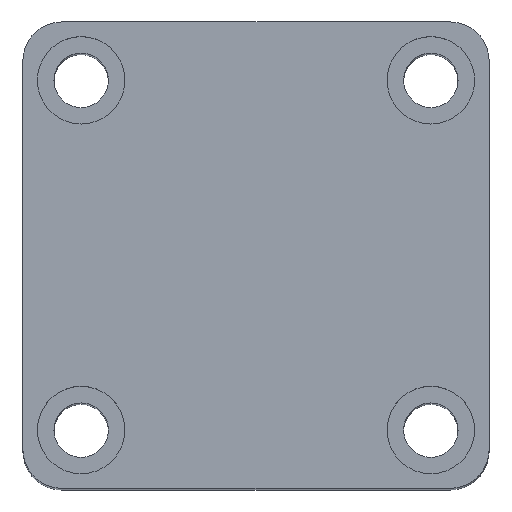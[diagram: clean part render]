
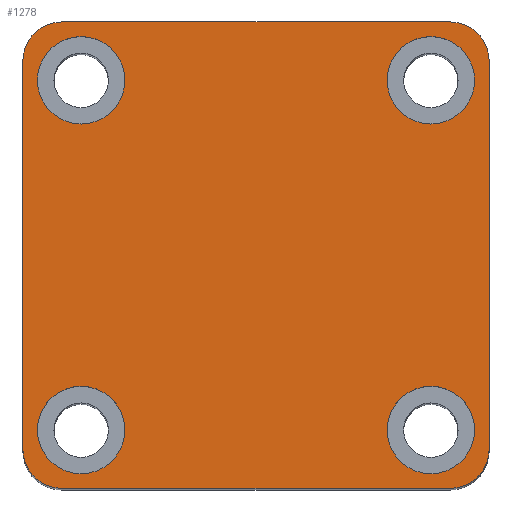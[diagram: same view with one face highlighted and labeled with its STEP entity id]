
A CAD part, top view. The second image highlights one B-rep face of the part: STEP entity #1278.
In plain terms, the highlighted planar face has unit normal (0, 0, 1).
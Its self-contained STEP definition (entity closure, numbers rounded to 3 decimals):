
#111 = ORIENTED_EDGE ( 'NONE', *, *, #1208, .T. ) ;
#134 = ORIENTED_EDGE ( 'NONE', *, *, #1192, .F. ) ;
#144 = ORIENTED_EDGE ( 'NONE', *, *, #1196, .F. ) ;
#145 = ORIENTED_EDGE ( 'NONE', *, *, #1159, .T. ) ;
#173 = ORIENTED_EDGE ( 'NONE', *, *, #1215, .F. ) ;
#212 = ORIENTED_EDGE ( 'NONE', *, *, #1160, .F. ) ;
#247 = ORIENTED_EDGE ( 'NONE', *, *, #1099, .T. ) ;
#264 = ORIENTED_EDGE ( 'NONE', *, *, #1675, .F. ) ;
#265 = ORIENTED_EDGE ( 'NONE', *, *, #1132, .F. ) ;
#313 = ORIENTED_EDGE ( 'NONE', *, *, #1161, .F. ) ;
#342 = CIRCLE ( 'NONE', #1842, 4.5 ) ;
#353 = CIRCLE ( 'NONE', #1846, 4. ) ;
#380 = CIRCLE ( 'NONE', #1853, 4.5 ) ;
#382 = CIRCLE ( 'NONE', #1855, 4.5 ) ;
#385 = ORIENTED_EDGE ( 'NONE', *, *, #1171, .T. ) ;
#414 = ORIENTED_EDGE ( 'NONE', *, *, #1141, .T. ) ;
#415 = CIRCLE ( 'NONE', #1863, 4. ) ;
#418 = CIRCLE ( 'NONE', #1868, 4. ) ;
#422 = CIRCLE ( 'NONE', #1870, 4.5 ) ;
#425 = CIRCLE ( 'NONE', #1872, 4.5 ) ;
#427 = CIRCLE ( 'NONE', #1873, 4. ) ;
#433 = CIRCLE ( 'NONE', #1871, 4.5 ) ;
#446 = VECTOR ( 'NONE', #2727, 1000. ) ;
#453 = LINE ( 'NONE', #2716, #446 ) ;
#458 = CIRCLE ( 'NONE', #1891, 4.5 ) ;
#502 = VECTOR ( 'NONE', #1449, 1000. ) ;
#505 = LINE ( 'NONE', #1455, #502 ) ;
#506 = VECTOR ( 'NONE', #1457, 1000. ) ;
#509 = LINE ( 'NONE', #1460, #506 ) ;
#521 = VECTOR ( 'NONE', #1485, 1000. ) ;
#532 = LINE ( 'NONE', #1497, #521 ) ;
#615 = EDGE_LOOP ( 'NONE', ( #795, #145, #247, #807, #952, #385, #414, #111 ) ) ;
#622 = EDGE_LOOP ( 'NONE', ( #780, #144 ) ) ;
#631 = EDGE_LOOP ( 'NONE', ( #313, #173 ) ) ;
#652 = EDGE_LOOP ( 'NONE', ( #265, #264 ) ) ;
#656 = EDGE_LOOP ( 'NONE', ( #212, #134 ) ) ;
#729 = VERTEX_POINT ( 'NONE', #1469 ) ;
#735 = VERTEX_POINT ( 'NONE', #1642 ) ;
#736 = VERTEX_POINT ( 'NONE', #1641 ) ;
#743 = VERTEX_POINT ( 'NONE', #1633 ) ;
#744 = VERTEX_POINT ( 'NONE', #1632 ) ;
#778 = VERTEX_POINT ( 'NONE', #1607 ) ;
#780 = ORIENTED_EDGE ( 'NONE', *, *, #1163, .F. ) ;
#795 = ORIENTED_EDGE ( 'NONE', *, *, #1096, .T. ) ;
#807 = ORIENTED_EDGE ( 'NONE', *, *, #1165, .T. ) ;
#825 = VERTEX_POINT ( 'NONE', #1579 ) ;
#834 = VERTEX_POINT ( 'NONE', #1567 ) ;
#842 = VERTEX_POINT ( 'NONE', #1558 ) ;
#844 = VERTEX_POINT ( 'NONE', #1554 ) ;
#849 = VERTEX_POINT ( 'NONE', #1549 ) ;
#851 = VERTEX_POINT ( 'NONE', #1546 ) ;
#853 = VERTEX_POINT ( 'NONE', #1544 ) ;
#854 = VERTEX_POINT ( 'NONE', #1543 ) ;
#855 = VERTEX_POINT ( 'NONE', #1540 ) ;
#871 = VERTEX_POINT ( 'NONE', #1523 ) ;
#952 = ORIENTED_EDGE ( 'NONE', *, *, #1088, .T. ) ;
#1088 = EDGE_CURVE ( 'NONE', #842, #844, #532, .T. ) ;
#1096 = EDGE_CURVE ( 'NONE', #853, #854, #509, .T. ) ;
#1099 = EDGE_CURVE ( 'NONE', #855, #849, #505, .T. ) ;
#1132 = EDGE_CURVE ( 'NONE', #744, #778, #458, .T. ) ;
#1141 = EDGE_CURVE ( 'NONE', #834, #851, #453, .T. ) ;
#1159 = EDGE_CURVE ( 'NONE', #854, #855, #427, .T. ) ;
#1160 = EDGE_CURVE ( 'NONE', #871, #825, #425, .T. ) ;
#1161 = EDGE_CURVE ( 'NONE', #736, #735, #433, .T. ) ;
#1163 = EDGE_CURVE ( 'NONE', #743, #729, #422, .T. ) ;
#1165 = EDGE_CURVE ( 'NONE', #849, #842, #418, .T. ) ;
#1171 = EDGE_CURVE ( 'NONE', #844, #834, #415, .T. ) ;
#1192 = EDGE_CURVE ( 'NONE', #825, #871, #382, .T. ) ;
#1196 = EDGE_CURVE ( 'NONE', #729, #743, #380, .T. ) ;
#1208 = EDGE_CURVE ( 'NONE', #851, #853, #353, .T. ) ;
#1215 = EDGE_CURVE ( 'NONE', #735, #736, #342, .T. ) ;
#1278 = ADVANCED_FACE ( 'NONE', ( #2121, #2115, #2117, #2116, #2118 ), #2368, .T. ) ;
#1289 = DIRECTION ( 'NONE',  ( 1., 0., 0. ) ) ;
#1290 = DIRECTION ( 'NONE',  ( 0., 0., 1. ) ) ;
#1292 = CARTESIAN_POINT ( 'NONE',  ( -18., 18., 100. ) ) ;
#1449 = DIRECTION ( 'NONE',  ( 0., -1., 0. ) ) ;
#1455 = CARTESIAN_POINT ( 'NONE',  ( -24., 24., 100. ) ) ;
#1457 = DIRECTION ( 'NONE',  ( -1., 0., 0. ) ) ;
#1460 = CARTESIAN_POINT ( 'NONE',  ( -24., 24., 100. ) ) ;
#1469 = CARTESIAN_POINT ( 'NONE',  ( 13.5, -18., 100. ) ) ;
#1485 = DIRECTION ( 'NONE',  ( 1., 0., 0. ) ) ;
#1497 = CARTESIAN_POINT ( 'NONE',  ( -24., -24., 100. ) ) ;
#1523 = CARTESIAN_POINT ( 'NONE',  ( -13.5, -18., 100. ) ) ;
#1540 = CARTESIAN_POINT ( 'NONE',  ( -24., 20., 100. ) ) ;
#1543 = CARTESIAN_POINT ( 'NONE',  ( -20., 24., 100. ) ) ;
#1544 = CARTESIAN_POINT ( 'NONE',  ( 20., 24., 100. ) ) ;
#1546 = CARTESIAN_POINT ( 'NONE',  ( 24., 20., 100. ) ) ;
#1549 = CARTESIAN_POINT ( 'NONE',  ( -24., -20., 100. ) ) ;
#1554 = CARTESIAN_POINT ( 'NONE',  ( 20., -24., 100. ) ) ;
#1558 = CARTESIAN_POINT ( 'NONE',  ( -20., -24., 100. ) ) ;
#1567 = CARTESIAN_POINT ( 'NONE',  ( 24., -20., 100. ) ) ;
#1579 = CARTESIAN_POINT ( 'NONE',  ( -22.5, -18., 100. ) ) ;
#1607 = CARTESIAN_POINT ( 'NONE',  ( -22.5, 18., 100. ) ) ;
#1632 = CARTESIAN_POINT ( 'NONE',  ( -13.5, 18., 100. ) ) ;
#1633 = CARTESIAN_POINT ( 'NONE',  ( 22.5, -18., 100. ) ) ;
#1641 = CARTESIAN_POINT ( 'NONE',  ( 22.5, 18., 100. ) ) ;
#1642 = CARTESIAN_POINT ( 'NONE',  ( 13.5, 18., 100. ) ) ;
#1675 = EDGE_CURVE ( 'NONE', #778, #744, #2076, .T. ) ;
#1771 = AXIS2_PLACEMENT_3D ( 'NONE', #2266, #2265, #2263 ) ;
#1784 = AXIS2_PLACEMENT_3D ( 'NONE', #2372, #2378, #2366 ) ;
#1842 = AXIS2_PLACEMENT_3D ( 'NONE', #2605, #2604, #2602 ) ;
#1846 = AXIS2_PLACEMENT_3D ( 'NONE', #2628, #2627, #2626 ) ;
#1853 = AXIS2_PLACEMENT_3D ( 'NONE', #2678, #2677, #2673 ) ;
#1855 = AXIS2_PLACEMENT_3D ( 'NONE', #2689, #2688, #2686 ) ;
#1863 = AXIS2_PLACEMENT_3D ( 'NONE', #2333, #2327, #2321 ) ;
#1868 = AXIS2_PLACEMENT_3D ( 'NONE', #2408, #2405, #2401 ) ;
#1870 = AXIS2_PLACEMENT_3D ( 'NONE', #2426, #2443, #2438 ) ;
#1871 = AXIS2_PLACEMENT_3D ( 'NONE', #2453, #2481, #2452 ) ;
#1872 = AXIS2_PLACEMENT_3D ( 'NONE', #2520, #2465, #2464 ) ;
#1873 = AXIS2_PLACEMENT_3D ( 'NONE', #2485, #2479, #2470 ) ;
#1891 = AXIS2_PLACEMENT_3D ( 'NONE', #1292, #1290, #1289 ) ;
#2076 = CIRCLE ( 'NONE', #1771, 4.5 ) ;
#2115 = FACE_BOUND ( 'NONE', #631, .T. ) ;
#2116 = FACE_BOUND ( 'NONE', #622, .T. ) ;
#2117 = FACE_BOUND ( 'NONE', #656, .T. ) ;
#2118 = FACE_OUTER_BOUND ( 'NONE', #615, .T. ) ;
#2121 = FACE_BOUND ( 'NONE', #652, .T. ) ;
#2263 = DIRECTION ( 'NONE',  ( 1., 0., 0. ) ) ;
#2265 = DIRECTION ( 'NONE',  ( 0., 0., 1. ) ) ;
#2266 = CARTESIAN_POINT ( 'NONE',  ( -18., 18., 100. ) ) ;
#2321 = DIRECTION ( 'NONE',  ( 1., 0., 0. ) ) ;
#2327 = DIRECTION ( 'NONE',  ( 0., 0., 1. ) ) ;
#2333 = CARTESIAN_POINT ( 'NONE',  ( 20., -20., 100. ) ) ;
#2366 = DIRECTION ( 'NONE',  ( 1., 0., 0. ) ) ;
#2368 = PLANE ( 'NONE',  #1784 ) ;
#2372 = CARTESIAN_POINT ( 'NONE',  ( 0., 0., 100. ) ) ;
#2378 = DIRECTION ( 'NONE',  ( 0., 0., 1. ) ) ;
#2401 = DIRECTION ( 'NONE',  ( 1., 0., 0. ) ) ;
#2405 = DIRECTION ( 'NONE',  ( 0., 0., 1. ) ) ;
#2408 = CARTESIAN_POINT ( 'NONE',  ( -20., -20., 100. ) ) ;
#2426 = CARTESIAN_POINT ( 'NONE',  ( 18., -18., 100. ) ) ;
#2438 = DIRECTION ( 'NONE',  ( 1., 0., 0. ) ) ;
#2443 = DIRECTION ( 'NONE',  ( 0., 0., 1. ) ) ;
#2452 = DIRECTION ( 'NONE',  ( 1., 0., 0. ) ) ;
#2453 = CARTESIAN_POINT ( 'NONE',  ( 18., 18., 100. ) ) ;
#2464 = DIRECTION ( 'NONE',  ( 1., 0., 0. ) ) ;
#2465 = DIRECTION ( 'NONE',  ( 0., 0., 1. ) ) ;
#2470 = DIRECTION ( 'NONE',  ( 1., 0., 0. ) ) ;
#2479 = DIRECTION ( 'NONE',  ( 0., 0., 1. ) ) ;
#2481 = DIRECTION ( 'NONE',  ( 0., 0., 1. ) ) ;
#2485 = CARTESIAN_POINT ( 'NONE',  ( -20., 20., 100. ) ) ;
#2520 = CARTESIAN_POINT ( 'NONE',  ( -18., -18., 100. ) ) ;
#2602 = DIRECTION ( 'NONE',  ( 1., 0., 0. ) ) ;
#2604 = DIRECTION ( 'NONE',  ( 0., 0., 1. ) ) ;
#2605 = CARTESIAN_POINT ( 'NONE',  ( 18., 18., 100. ) ) ;
#2626 = DIRECTION ( 'NONE',  ( 1., 0., 0. ) ) ;
#2627 = DIRECTION ( 'NONE',  ( 0., 0., 1. ) ) ;
#2628 = CARTESIAN_POINT ( 'NONE',  ( 20., 20., 100. ) ) ;
#2673 = DIRECTION ( 'NONE',  ( 1., 0., 0. ) ) ;
#2677 = DIRECTION ( 'NONE',  ( 0., 0., 1. ) ) ;
#2678 = CARTESIAN_POINT ( 'NONE',  ( 18., -18., 100. ) ) ;
#2686 = DIRECTION ( 'NONE',  ( 1., 0., 0. ) ) ;
#2688 = DIRECTION ( 'NONE',  ( 0., 0., 1. ) ) ;
#2689 = CARTESIAN_POINT ( 'NONE',  ( -18., -18., 100. ) ) ;
#2716 = CARTESIAN_POINT ( 'NONE',  ( 24., 24., 100. ) ) ;
#2727 = DIRECTION ( 'NONE',  ( 0., 1., 0. ) ) ;
